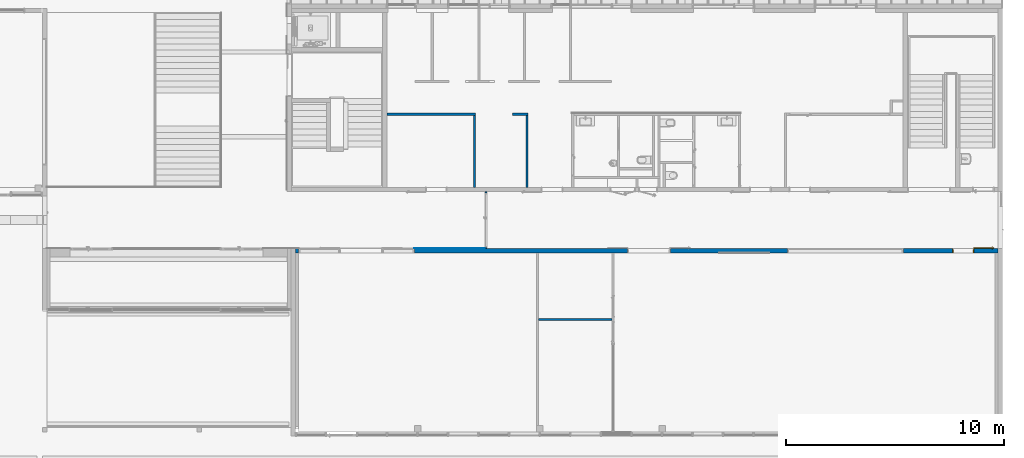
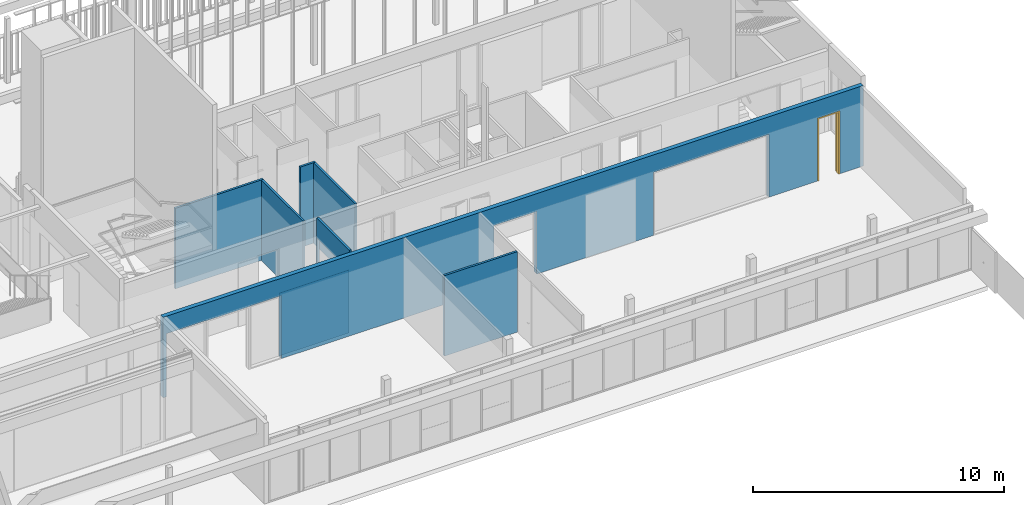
# One storey, part 163 of 240: 8 walls, 1 door, 7 openings.
"""IFC2X3 building model written with IfcOpenShell, lengths in centimetres."""

from ifc_helpers import new_model, entity, si_unit, converted_unit, derived_unit, direction, frame, frame_2d, origin, place, context, subcontext, project, spatial, polyline, rectangle, extrude, clip, bounded_halfspace, faceted_brep, source, transform, mapped, material, material_list, layer, layer_set, layer_usage, type_object, type_shapes, element, fill, save


model = new_model("IFC2X3")

# Units and contexts
model_context = context("Model", 3, precision=0.001, world=origin(), true_north=direction((6.12303176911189e-17, 1.0)))
body_context = subcontext(model_context, "Body", "Model", "MODEL_VIEW")
ifc_project = project(units=[si_unit("LENGTHUNIT", "METRE", prefix="CENTI"), si_unit("AREAUNIT", "SQUARE_METRE"), si_unit("VOLUMEUNIT", "CUBIC_METRE"), converted_unit("PLANEANGLEUNIT", "DEGREE", entity("IfcRatioMeasure", 0.0174532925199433), si_unit("PLANEANGLEUNIT", "RADIAN"), dimensions=[0, 0, 0, 0, 0, 0, 0]), si_unit("MASSUNIT", "GRAM", prefix="KILO"), derived_unit("MASSDENSITYUNIT", [(si_unit("MASSUNIT", "GRAM", prefix="KILO"), 1), (si_unit("LENGTHUNIT", "METRE"), -3)]), si_unit("TIMEUNIT", "SECOND"), si_unit("FREQUENCYUNIT", "HERTZ"), si_unit("THERMODYNAMICTEMPERATUREUNIT", "DEGREE_CELSIUS"), derived_unit("THERMALTRANSMITTANCEUNIT", [(si_unit("MASSUNIT", "GRAM", prefix="KILO"), 1), (si_unit("THERMODYNAMICTEMPERATUREUNIT", "KELVIN"), -1), (si_unit("TIMEUNIT", "SECOND"), -3)]), derived_unit("VOLUMETRICFLOWRATEUNIT", [(si_unit("LENGTHUNIT", "METRE"), 3), (si_unit("TIMEUNIT", "SECOND"), -1)]), si_unit("ELECTRICCURRENTUNIT", "AMPERE"), si_unit("ELECTRICVOLTAGEUNIT", "VOLT"), si_unit("POWERUNIT", "WATT"), si_unit("FORCEUNIT", "NEWTON", prefix="KILO"), si_unit("ILLUMINANCEUNIT", "LUX"), si_unit("LUMINOUSFLUXUNIT", "LUMEN"), si_unit("LUMINOUSINTENSITYUNIT", "CANDELA"), derived_unit("USERDEFINED", [(si_unit("MASSUNIT", "GRAM", prefix="KILO"), -1), (si_unit("LENGTHUNIT", "METRE"), -2), (si_unit("TIMEUNIT", "SECOND"), 3), (si_unit("LUMINOUSFLUXUNIT", "LUMEN"), 1)]), derived_unit("LINEARVELOCITYUNIT", [(si_unit("LENGTHUNIT", "METRE"), 1), (si_unit("TIMEUNIT", "SECOND"), -1)]), si_unit("PRESSUREUNIT", "PASCAL"), derived_unit("USERDEFINED", [(si_unit("LENGTHUNIT", "METRE"), -2), (si_unit("MASSUNIT", "GRAM", prefix="KILO"), 1), (si_unit("TIMEUNIT", "SECOND"), -2)])], contexts=[model_context])

# Site, building, storey
site_placement = place(None, frame((-2781.94577612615, 7442.24238424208, 0.0)))
site = spatial("IfcSite", under=ifc_project, at=site_placement, Name="Default", CompositionType="ELEMENT")
building_placement = place(site_placement, origin())
building = spatial("IfcBuilding", under=site, at=building_placement, CompositionType="ELEMENT")
storey_placement = place(building_placement, origin())
storey = spatial("IfcBuildingStorey", under=building, at=storey_placement, Name="N00 - COO", CompositionType="ELEMENT", Elevation=0.0)

# Wall, openings, door
ifc_material_1 = material(Name="01 - Maçonnerie")
ifc_layer_1 = layer(ifc_material_1, 20.0)
ifc_layer_set_1 = layer_set([ifc_layer_1], Name="Mur de base:04 - Structure - béton - 20cm")
ifc_layer_usage_1 = layer_usage(ifc_layer_set_1, "AXIS2", "NEGATIVE", 10.0)
wall_type_1 = type_object("IfcWallType", Name="Mur de base:04 - Structure - béton - 20cm", PredefinedType="STANDARD", material=ifc_layer_set_1)
wall_1_placement = place(building_placement, frame((-3629.49987968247, -2200.15656731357, 0.0)))
wall_1 = element("IfcWallStandardCase", 1, at=wall_1_placement, inside=storey, type_object=wall_type_1, material=ifc_layer_usage_1, Name="Mur de base:04 - Structure - béton - 20cm", ObjectType="Mur de base:04 - Structure - béton - 20cm", context=body_context, shape_type="Clipping", body=[
    clip(extrude(rectangle(XDim=3219.49999684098, YDim=19.9999999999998, at=frame_2d((1609.74999842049, -7.63833440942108e-14), x_axis=(-1.0, 0.0))), origin(), (0.0, 0.0, 1.0), 391.0), bounded_halfspace(frame((0.0, -10.0, 391.0), z_axis=(0.0, 0.0, -1.0), x_axis=(0.0, 1.0, 0.0)), True, frame((0.0, -10.0, 391.0)), polyline([(0.0, 0.0), (15.2999999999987, 0.0), (1104.50000207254, 0.0), (1114.50000207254, 0.0), (1450.3, 0.0), (1460.3, 0.0), (3204.19999684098, 0.0), (3219.49999684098, 0.0), (3219.49999684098, 20.0), (0.0, 20.0), (0.0, 0.0)]))),
])
opening_1_placement = place(wall_1_placement, frame((201.699996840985, 10.0, 0.0)))
element("IfcOpeningElement", 2, at=opening_1_placement, cuts=wall_1, Name="châssis intérieur vitré:châssis intérieur vitré (h=306):1", ObjectType="Opening", context=body_context, shape_type="SweptSolid", body=[
    extrude(rectangle(XDim=306.0, YDim=186.511887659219, at=frame_2d((153.0, 93.2559438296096), x_axis=(1.0, 0.0))), frame((0.0, 0.0, 0.0), z_axis=(0.0, -1.0, 0.0), x_axis=(0.0, 0.0, 1.0)), (0.0, 0.0, 1.0), 20.0),
])
opening_2_placement = place(wall_1_placement, frame((201.699996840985, -10.0, 0.0)))
element("IfcOpeningElement", 3, at=opening_2_placement, cuts=wall_1, Name="Int. Double:PV (1.90m x 3.00m):1", ObjectType="Opening", context=body_context, shape_type="SweptSolid", body=[
    extrude(rectangle(XDim=304.500000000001, YDim=197.0, at=frame_2d((152.250000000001, 98.5), x_axis=(1.0, 0.0))), frame((0.0, 0.0, 0.0), z_axis=(0.0, 1.0, 0.0), x_axis=(0.0, 0.0, 1.0)), (0.0, 0.0, 1.0), 20.0),
])
opening_3_placement = place(wall_1_placement, frame((544.500002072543, 10.0, 0.0)))
element("IfcOpeningElement", 4, at=opening_3_placement, cuts=wall_1, Name="châssis intérieur vitré:châssis intérieur vitré (h=306):1", ObjectType="Opening", context=body_context, shape_type="SweptSolid", body=[
    extrude(rectangle(XDim=306.0, YDim=145.800005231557, at=frame_2d((153.0, 72.9000026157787), x_axis=(1.0, 0.0))), frame((0.0, 0.0, 0.0), z_axis=(0.0, -1.0, 0.0), x_axis=(0.0, 0.0, 1.0)), (0.0, 0.0, 1.0), 20.0),
])
opening_4_placement = place(wall_1_placement, frame((1520.3, -10.0, 0.0)))
element("IfcOpeningElement", 5, at=opening_4_placement, cuts=wall_1, Name="Int. Double:PV (1.90m x 3.00m):1", ObjectType="Opening", context=body_context, shape_type="SweptSolid", body=[
    extrude(rectangle(XDim=304.500000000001, YDim=197.0, at=frame_2d((152.250000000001, 98.5), x_axis=(1.0, 0.0))), frame((0.0, 0.0, 0.0), z_axis=(0.0, 1.0, 0.0), x_axis=(0.0, 0.0, 1.0)), (0.0, 0.0, 1.0), 20.0),
])
opening_5_placement = place(wall_1_placement, frame((3009.49999684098, -10.0, 0.0)))
opening_5 = element("IfcOpeningElement", 6, at=opening_5_placement, cuts=wall_1, Name="Int. Simple:PV (0.93m x 3.00m):1", ObjectType="Opening", context=body_context, shape_type="SweptSolid", body=[
    extrude(rectangle(XDim=304.500000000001, YDim=99.9999999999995, at=frame_2d((152.250000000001, 49.9999999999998), x_axis=(1.0, 0.0))), frame((0.0, 0.0, 0.0), z_axis=(0.0, 1.0, 0.0), x_axis=(0.0, 0.0, 1.0)), (0.0, 0.0, 1.0), 20.0),
])
opening_6_placement = place(wall_1_placement, frame((2784.50000199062, 10.0, 0.0)))
element("IfcOpeningElement", 7, at=opening_6_placement, cuts=wall_1, Name="châssis intérieur vitré:châssis intérieur vitré (h=306):1", ObjectType="Opening", context=body_context, shape_type="SweptSolid", body=[
    extrude(rectangle(XDim=306.0, YDim=530.0, at=frame_2d((153.0, 265.0), x_axis=(1.0, 0.0))), frame((0.0, 0.0, 0.0), z_axis=(0.0, -1.0, 0.0), x_axis=(0.0, 0.0, 1.0)), (0.0, 0.0, 1.0), 20.0),
])
ifc_material_2 = material(Name="Finition Peinture - Blanc satiné")
ifc_material_3 = material(Name="Bois - Panneau de porte")
ifc_material_4 = material(Name="Bois - Cadre de porte")
ifc_material_list_1 = material_list([ifc_material_2, ifc_material_3, ifc_material_4])
ifc_material_list_2 = material_list([ifc_material_2, ifc_material_3, ifc_material_4])
door_style = type_object("IfcDoorStyle", Name="PV (0.93m x 3.00m)", ConstructionType="NOTDEFINED", OperationType="SINGLE_SWING_RIGHT", ParameterTakesPrecedence=False, Sizeable=False, material=ifc_material_list_2)
shared_shape = source(origin(), body_context, "Body", "Brep", [
    faceted_brep([(-78.4999999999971, 0.499999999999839, 87.0), (-78.4999999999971, 0.499999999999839, 108.0), (-77.5352761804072, 0.499999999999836, 108.399601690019), (-76.4999999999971, 0.49999999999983, 108.535898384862), (-75.4647238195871, 0.499999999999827, 108.399601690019), (-74.4999999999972, 0.499999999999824, 108.0), (-74.499999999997, 0.499999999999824, 87.0), (-75.4647238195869, 0.499999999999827, 86.6003983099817), (-76.499999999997, 0.49999999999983, 86.464101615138), (-77.5352761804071, 0.499999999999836, 86.6003983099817), (-78.4999999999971, 0.0, 108.0), (-78.499999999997, 0.0, 87.0), (-77.5352761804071, 0.0, 86.6003983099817), (-76.499999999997, 0.0, 86.464101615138), (-75.464723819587, 0.0, 86.6003983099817), (-74.4999999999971, 0.0, 87.0), (-74.4999999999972, 0.0, 108.0), (-75.4647238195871, 0.0, 108.399601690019), (-76.4999999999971, 0.0, 108.535898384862), (-77.5352761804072, 0.0, 108.399601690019)], [[[0, 1, 2, 3, 4, 5, 6, 7, 8, 9]], [[10, 11, 12, 13, 14, 15, 16, 17, 18, 19]], [[9, 12, 11, 0]], [[8, 13, 12, 9]], [[7, 14, 13, 8]], [[7, 6, 15, 14]], [[15, 6, 5, 16]], [[4, 17, 16, 5]], [[3, 18, 17, 4]], [[2, 19, 18, 3]], [[2, 1, 10, 19]], [[11, 10, 1, 0]]]),
    faceted_brep([(-78.4999999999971, -4.0, 87.0), (-78.4999999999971, -4.0, 108.0), (-77.5352761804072, -4.0, 108.399601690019), (-76.4999999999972, -4.0, 108.535898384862), (-75.4647238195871, -4.0, 108.399601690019), (-74.4999999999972, -4.0, 108.0), (-74.4999999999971, -4.0, 87.0), (-75.464723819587, -4.0, 86.6003983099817), (-76.499999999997, -4.0, 86.464101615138), (-77.5352761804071, -4.0, 86.6003983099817), (-76.4999999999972, -4.50000000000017, 108.535898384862), (-77.5352761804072, -4.50000000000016, 108.399601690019), (-78.4999999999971, -4.50000000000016, 108.0), (-78.499999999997, -4.50000000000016, 87.0), (-77.5352761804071, -4.50000000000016, 86.6003983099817), (-76.499999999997, -4.50000000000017, 86.464101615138), (-75.464723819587, -4.50000000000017, 86.6003983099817), (-74.4999999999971, -4.50000000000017, 87.0), (-74.4999999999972, -4.50000000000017, 108.0), (-75.4647238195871, -4.50000000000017, 108.399601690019)], [[[0, 1, 2, 3, 4, 5, 6, 7, 8, 9]], [[10, 11, 12, 13, 14, 15, 16, 17, 18, 19]], [[4, 19, 18, 5]], [[3, 10, 19, 4]], [[2, 11, 10, 3]], [[2, 1, 12, 11]], [[13, 12, 1, 0]], [[9, 14, 13, 0]], [[8, 15, 14, 9]], [[7, 16, 15, 8]], [[7, 6, 17, 16]], [[17, 6, 5, 18]]]),
    faceted_brep([(-76.2974701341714, 0.499999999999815, 100.778044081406), (-76.7025298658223, 0.499999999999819, 100.778044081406), (-77.0999999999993, 0.499999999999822, 100.699999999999), (-77.1000000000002, 0.499999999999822, 99.2999999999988), (-76.7025298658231, 0.499999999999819, 99.221955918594), (-76.2974701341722, 0.499999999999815, 99.2219559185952), (-75.8999999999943, 0.499999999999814, 99.3000000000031), (-75.8999999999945, 0.499999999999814, 100.7), (-76.7025298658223, 3.10045754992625, 100.778044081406), (-77.0999999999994, 3.26509507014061, 100.7), (-76.2974701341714, 2.93267631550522, 100.778044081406), (-74.929860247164, 4.30028620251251, 100.778044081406), (-75.097641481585, 4.70534593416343, 100.778044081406), (-75.8999999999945, 2.76803879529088, 100.7), (-75.8999999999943, 2.76803879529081, 99.3000000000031), (-76.2974701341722, 2.93267631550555, 99.2219559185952), (-76.7025298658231, 3.10045754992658, 99.221955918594), (-75.0976414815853, 4.70534593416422, 99.221955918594), (-74.9298602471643, 4.3002862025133, 99.2219559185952), (-77.1000000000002, 3.26509507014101, 99.2999999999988), (-75.2622790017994, 5.10281606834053, 100.7), (-74.7652227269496, 3.9028160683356, 100.7), (-74.7652227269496, 3.90281606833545, 99.3000000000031), (-75.2622790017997, 5.10281606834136, 99.2999999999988), (-66.4981359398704, 5.10281606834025, 100.7), (-66.4981359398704, 4.70534593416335, 100.778044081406), (-66.4981359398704, 4.30028620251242, 100.778044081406), (-66.4981359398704, 3.90281606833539, 100.699999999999), (-66.4981359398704, 3.90281606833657, 99.3000000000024), (-66.4981359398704, 4.30028620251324, 99.2219559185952), (-66.4981359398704, 4.70534593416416, 99.221955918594), (-66.4981359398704, 5.10281606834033, 99.2999999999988), (-70.7139980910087, 4.50281606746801, 100.78786867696), (-71.2692302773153, 5.10281606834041, 100.7), (-70.63167933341, 3.90281606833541, 100.7), (-70.6316793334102, 3.9028160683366, 99.3000000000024), (-70.7139981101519, 4.50281607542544, 99.2121313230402), (-71.2692310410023, 5.10281606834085, 99.2999999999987)], [[[0, 1, 2, 3, 4, 5, 6, 7]], [[2, 1, 8, 9]], [[1, 0, 10, 11, 12, 8]], [[0, 7, 13, 10]], [[14, 13, 7, 6]], [[5, 15, 14, 6]], [[5, 4, 16, 17, 18, 15]], [[3, 19, 16, 4]], [[9, 19, 3, 2]], [[9, 8, 12, 20]], [[10, 13, 21, 11]], [[22, 21, 13, 14]], [[14, 15, 18, 22]], [[16, 19, 23, 17]], [[20, 23, 19, 9]], [[24, 25, 26, 27, 28, 29, 30, 31]], [[32, 25, 33]], [[33, 25, 24]], [[33, 20, 12]], [[11, 34, 32]], [[34, 11, 21]], [[27, 26, 34]], [[32, 26, 25]], [[32, 34, 26]], [[32, 33, 12]], [[11, 32, 12]], [[21, 22, 35, 28, 27, 34]], [[36, 29, 35]], [[30, 36, 37]], [[18, 35, 22]], [[29, 28, 35]], [[30, 37, 31]], [[37, 17, 23]], [[36, 17, 37]], [[36, 18, 17]], [[36, 35, 18]], [[29, 36, 30]], [[23, 20, 33, 24, 31, 37]]]),
    faceted_brep([(-76.2974701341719, -4.50000000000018, 99.2219559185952), (-76.7025298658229, -4.50000000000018, 99.221955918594), (-77.099999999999, -4.50000000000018, 99.2999999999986), (-77.0999999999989, -4.50000000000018, 100.7), (-76.702529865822, -4.50000000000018, 100.778044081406), (-76.2974701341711, -4.50000000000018, 100.778044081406), (-75.8999999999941, -4.50000000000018, 100.7), (-75.8999999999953, -4.50000000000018, 99.3000000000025), (-75.8999999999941, -6.74852045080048, 100.7), (-75.8999999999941, -6.74852045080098, 99.3000000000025), (-76.2974701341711, -6.91315797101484, 100.778044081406), (-76.702529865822, -7.08093920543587, 100.778044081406), (-75.0838906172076, -8.69957845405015, 100.778044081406), (-74.9161093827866, -8.29451872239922, 100.778044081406), (-77.0999999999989, -7.2455767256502, 100.7), (-77.099999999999, -7.24557672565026, 99.2999999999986), (-76.7025298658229, -7.08093920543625, 99.221955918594), (-76.297470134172, -6.91315797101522, 99.2219559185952), (-74.916109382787, -8.29451872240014, 99.2219559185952), (-75.083890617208, -8.69957845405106, 99.221955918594), (-74.7514718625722, -7.89704858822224, 100.7), (-74.7514718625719, -7.8970485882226, 99.3000000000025), (-75.2485281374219, -9.09704858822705, 100.7), (-75.248528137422, -9.09704858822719, 99.2999999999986), (-66.4954216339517, -8.29451872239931, 100.778044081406), (-66.4954216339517, -8.69957845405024, 100.778044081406), (-66.4954216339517, -9.09704858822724, 100.7), (-66.4954216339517, -9.09704858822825, 99.2999999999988), (-66.4954216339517, -8.69957845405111, 99.221955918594), (-66.4954216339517, -8.29451872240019, 99.2219559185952), (-66.4954216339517, -7.8970485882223, 99.3000000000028), (-66.4954216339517, -7.89704858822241, 100.7), (-70.623446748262, -7.89704858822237, 100.7), (-70.6234479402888, -7.89704858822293, 99.3000000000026), (-70.7057655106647, -8.49704858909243, 100.78786867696), (-71.2554794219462, -9.09704858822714, 100.7), (-71.2554795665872, -9.09704858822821, 99.2999999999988), (-70.7057654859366, -8.49704858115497, 99.2121313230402)], [[[0, 1, 2, 3, 4, 5, 6, 7]], [[8, 9, 7, 6]], [[5, 10, 8, 6]], [[5, 4, 11, 12, 13, 10]], [[3, 14, 11, 4]], [[14, 3, 2, 15]], [[2, 1, 16, 15]], [[1, 0, 17, 18, 19, 16]], [[0, 7, 9, 17]], [[20, 21, 9, 8]], [[8, 10, 13, 20]], [[14, 22, 12, 11]], [[23, 22, 14, 15]], [[15, 16, 19, 23]], [[17, 9, 21, 18]], [[24, 25, 26, 27, 28, 29, 30, 31]], [[21, 20, 32, 31, 30, 33]], [[34, 24, 32]], [[25, 34, 35]], [[13, 32, 20]], [[24, 31, 32]], [[25, 35, 26]], [[35, 12, 22]], [[34, 12, 35]], [[34, 13, 12]], [[34, 32, 13]], [[24, 34, 25]], [[22, 23, 36, 27, 26, 35]], [[37, 28, 36]], [[36, 28, 27]], [[36, 23, 19]], [[18, 33, 37]], [[33, 18, 21]], [[30, 29, 33]], [[37, 29, 28]], [[37, 33, 29]], [[37, 36, 19]], [[18, 37, 19]]]),
    faceted_brep([(-82.4999999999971, -4.0, 301.0), (-82.4999999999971, -4.0, 0.0), (10.5000000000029, -4.0, 0.0), (10.5000000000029, -4.0, 301.0), (-82.4999999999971, 0.0, 301.0), (10.5000000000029, 0.0, 301.0), (10.5000000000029, 0.0, 0.0), (-82.4999999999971, 0.0, 0.0)], [[[0, 1, 2, 3]], [[4, 5, 6, 7]], [[3, 5, 4, 0]], [[2, 6, 5, 3]], [[1, 7, 6, 2]], [[0, 4, 7, 1]]]),
    faceted_brep([(107.0, 20.0, 0.0), (107.0, 0.0, 0.0), (108.500000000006, 0.0, 0.0), (108.500000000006, -0.500000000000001, 0.0), (103.500000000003, -0.500000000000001, 0.0), (103.500000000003, 4.0, 0.0), (102.0, 4.0, 0.0), (102.0, 20.5000000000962, 0.0), (108.500000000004, 20.5000000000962, 0.0), (108.500000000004, 20.0, 0.0), (108.500000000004, 20.0, 306.0), (5.50000000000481, 20.0, 306.0), (5.50000000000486, 20.0, 0.0), (7.0, 20.0, 0.0), (7.0, 20.0, 304.500000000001), (107.0, 20.0, 304.500000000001), (108.500000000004, 20.5000000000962, 306.0), (102.0, 20.5000000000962, 299.5), (12.0, 20.5000000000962, 299.5), (12.0, 20.5000000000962, 0.0), (5.50000000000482, 20.5000000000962, 0.0), (5.50000000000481, 20.5000000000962, 306.0), (102.0, 4.0, 299.5), (103.500000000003, 4.0, 301.0), (10.5000000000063, 4.0, 301.0), (10.5000000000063, 4.0, 0.0), (12.0, 4.0, 0.0), (12.0, 4.0, 299.5), (103.500000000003, -0.500000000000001, 301.0), (108.500000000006, -0.500000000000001, 306.0), (5.5000000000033, -0.500000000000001, 306.0), (5.50000000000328, -0.500000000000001, 0.0), (10.5000000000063, -0.500000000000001, 0.0), (10.5000000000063, -0.500000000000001, 301.0), (108.500000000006, 0.0, 306.0), (107.0, 0.0, 304.500000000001), (7.0, 0.0, 304.500000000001), (7.0, 0.0, 0.0), (5.5000000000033, 0.0, 0.0), (5.50000000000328, 0.0, 306.0)], [[[0, 1, 2, 3, 4, 5, 6, 7, 8, 9]], [[9, 10, 11, 12, 13, 14, 15, 0]], [[8, 16, 10, 9]], [[7, 17, 18, 19, 20, 21, 16, 8]], [[7, 6, 22, 17]], [[5, 23, 24, 25, 26, 27, 22, 6]], [[5, 4, 28, 23]], [[3, 29, 30, 31, 32, 33, 28, 4]], [[2, 34, 29, 3]], [[1, 35, 36, 37, 38, 39, 34, 2]], [[0, 15, 35, 1]], [[14, 13, 37, 36]], [[13, 12, 20, 19, 26, 25, 32, 31, 38, 37]], [[21, 20, 12, 11]], [[27, 26, 19, 18]], [[33, 32, 25, 24]], [[39, 38, 31, 30]], [[15, 14, 36, 35]], [[16, 21, 11, 10]], [[22, 27, 18, 17]], [[28, 33, 24, 23]], [[34, 39, 30, 29]]]),
])
type_shapes(door_style, [shared_shape])
door_placement = place(opening_5_placement, frame((107.0, 20.0, 0.0), z_axis=(0.0, 0.0, 1.0), x_axis=(-1.0, 0.0, 0.0)))
door = element("IfcDoor", 8, at=door_placement, inside=storey, type_object=door_style, material=ifc_material_list_1, Name="Int. Simple:PV (0.93m x 3.00m)", ObjectType="Int. Simple:PV (0.93m x 3.00m)", OverallHeight=304.500000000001, OverallWidth=99.9999999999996, context=body_context, shape_type="MappedRepresentation", body=[
    mapped(shared_shape, transform((0.0, 0.0, 0.0), scale=1.0)),
])
fill(opening_5, door)

# Walls
ifc_material_5 = material(Name="01 - Enduit/Plâtre")
ifc_layer_2 = layer(ifc_material_5, 1.3)
ifc_material_6 = material(Name="00 - Isolant")
ifc_layer_3 = layer(ifc_material_6, 7.4)
ifc_layer_4 = layer(ifc_material_5, 1.3)
ifc_layer_set_2 = layer_set([ifc_layer_2, ifc_layer_3, ifc_layer_4], Name="Mur de base:06 - cloisons - Ba13 10cm")
ifc_layer_usage_2 = layer_usage(ifc_layer_set_2, "AXIS2", "NEGATIVE", 5.0)
wall_type_2 = type_object("IfcWallType", Name="Mur de base:06 - cloisons - Ba13 10cm", PredefinedType="STANDARD", material=ifc_layer_set_2)
wall_2_placement = place(building_placement, frame((-3209.29988284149, -1575.0, 0.0)))
element("IfcWallStandardCase", 9, at=wall_2_placement, inside=storey, type_object=wall_type_2, material=ifc_layer_usage_2, Name="Mur de base:06 - cloisons - Ba13 10cm", ObjectType="Mur de base:06 - cloisons - Ba13 10cm", context=body_context, shape_type="Clipping", body=[
    clip(extrude(rectangle(XDim=405.300000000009, YDim=9.99999999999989, at=frame_2d((202.650000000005, 7.105427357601e-15), x_axis=(-1.0, 0.0))), origin(), (0.0, 0.0, 1.0), 391.0), bounded_halfspace(frame((0.0, -5.0, 391.0), z_axis=(0.0, 0.0, -1.0), x_axis=(0.0, 1.0, 0.0)), True, frame((0.0, -5.0, 391.0)), polyline([(0.0, 0.0), (395.300000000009, 0.0), (405.300000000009, 0.0), (405.300000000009, 10.0), (0.0, 10.0), (0.0, 0.0)]))),
])
ifc_layer_usage_3 = layer_usage(ifc_layer_set_2, "AXIS2", "POSITIVE", -5.0)
wall_3_placement = place(building_placement, frame((-2808.99988284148, -1580.0, 0.0), z_axis=(0.0, 0.0, 1.0), x_axis=(0.0, -1.0, 0.0)))
element("IfcWallStandardCase", 10, at=wall_3_placement, inside=storey, type_object=wall_type_2, material=ifc_layer_usage_3, Name="Mur de base:06 - cloisons - Ba13 10cm", ObjectType="Mur de base:06 - cloisons - Ba13 10cm", context=body_context, shape_type="Clipping", body=[
    clip(extrude(rectangle(XDim=330.079033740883, YDim=10.0000000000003, at=frame_2d((165.039516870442, 3.90798504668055e-14), x_axis=(-1.0, 0.0))), origin(), (0.0, 0.0, 1.0), 391.0), bounded_halfspace(frame((0.0, -5.0, 391.0), z_axis=(0.0, 0.0, -1.0), x_axis=(-1.0, 0.0, 0.0)), True, frame((0.0, -5.0, 391.0)), polyline([(0.0, 0.0), (330.079033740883, 0.0), (330.079033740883, 10.0), (0.0, 10.0), (0.0, 0.0)]))),
])
ifc_layer_usage_4 = layer_usage(ifc_layer_set_2, "AXIS2", "NEGATIVE", 5.0)
wall_4_placement = place(building_placement, frame((-2633.99988284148, -1575.0, 0.0)))
element("IfcWallStandardCase", 11, at=wall_4_placement, inside=storey, type_object=wall_type_2, material=ifc_layer_usage_4, Name="Mur de base:06 - cloisons - Ba13 10cm", ObjectType="Mur de base:06 - cloisons - Ba13 10cm", context=body_context, shape_type="Clipping", body=[
    clip(extrude(rectangle(XDim=70.0000000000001, YDim=9.99999999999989, at=frame_2d((35.0000000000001, 0.0), x_axis=(-1.0, 0.0))), origin(), (0.0, 0.0, 1.0), 391.0), bounded_halfspace(frame((0.0, -5.0, 391.0), z_axis=(0.0, 0.0, -1.0), x_axis=(0.0, 1.0, 0.0)), True, frame((0.0, -5.0, 391.0)), polyline([(0.0, 0.0), (60.0, 0.0), (70.0, 0.0), (70.0, 10.0), (0.0, 10.0), (0.0, 0.0)]))),
])
ifc_layer_usage_5 = layer_usage(ifc_layer_set_2, "AXIS2", "NEGATIVE", 5.0)
wall_5_placement = place(building_placement, frame((-2568.99988284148, -1580.0, 0.0), z_axis=(0.0, 0.0, 1.0), x_axis=(0.0, -1.0, 0.0)))
element("IfcWallStandardCase", 12, at=wall_5_placement, inside=storey, type_object=wall_type_2, material=ifc_layer_usage_5, Name="Mur de base:06 - cloisons - Ba13 10cm", ObjectType="Mur de base:06 - cloisons - Ba13 10cm", context=body_context, shape_type="Clipping", body=[
    clip(extrude(rectangle(XDim=330.079033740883, YDim=10.0000000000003, at=frame_2d((165.039516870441, 3.90798504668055e-14), x_axis=(-1.0, 0.0))), origin(), (0.0, 0.0, 1.0), 391.0), bounded_halfspace(frame((0.0, -5.0, 391.0), z_axis=(0.0, 0.0, -1.0), x_axis=(-1.0, 0.0, 0.0)), True, frame((0.0, -5.0, 391.0)), polyline([(0.0, 0.0), (330.079033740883, 0.0), (330.079033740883, 10.0), (0.0, 10.0), (0.0, 0.0)]))),
])
ifc_layer_usage_6 = layer_usage(ifc_layer_set_2, "AXIS2", "NEGATIVE", 5.0)
wall_6_placement = place(building_placement, frame((-2514.99987760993, -2515.15656731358, 0.0)))
element("IfcWallStandardCase", 13, at=wall_6_placement, inside=storey, type_object=wall_type_2, material=ifc_layer_usage_6, Name="Mur de base:06 - cloisons - Ba13 10cm", ObjectType="Mur de base:06 - cloisons - Ba13 10cm", context=body_context, shape_type="Clipping", body=[
    clip(extrude(rectangle(XDim=335.799997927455, YDim=10.0000000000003, at=frame_2d((167.899998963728, 6.83897383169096e-14), x_axis=(-1.0, 0.0))), origin(), (0.0, 0.0, 1.0), 391.0), bounded_halfspace(frame((0.0, -5.0, 391.0), z_axis=(0.0, 0.0, -1.0), x_axis=(0.0, 1.0, 0.0)), True, frame((0.0, -5.0, 391.0)), polyline([(0.0, 0.0), (335.799997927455, 0.0), (335.799997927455, 10.0), (0.0, 10.0), (0.0, 0.0)]))),
])

# Wall, opening
ifc_layer_usage_7 = layer_usage(ifc_layer_set_2, "AXIS2", "NEGATIVE", 5.0)
wall_7_placement = place(building_placement, frame((-2756.99988284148, -1930.07903364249, 0.0), z_axis=(0.0, 0.0, 1.0), x_axis=(0.0, -1.0, 0.0)))
wall_7 = element("IfcWallStandardCase", 14, at=wall_7_placement, inside=storey, type_object=wall_type_2, material=ifc_layer_usage_7, Name="Mur de base:06 - cloisons - Ba13 10cm", ObjectType="Mur de base:06 - cloisons - Ba13 10cm", context=body_context, shape_type="SweptSolid", body=[
    extrude(rectangle(XDim=259.999999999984, YDim=10.0000000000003, at=frame_2d((129.999999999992, 3.5527136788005e-15), x_axis=(-1.0, 0.0))), origin(), (0.0, 0.0, 1.0), 401.0),
])
opening_7_placement = place(wall_7_placement, frame((255.0, 5.0, 0.0)))
element("IfcOpeningElement", 15, at=opening_7_placement, cuts=wall_7, Name="Int. Double:PV (2.50m x 3.06m):1", ObjectType="Opening", context=body_context, shape_type="SweptSolid", body=[
    extrude(rectangle(XDim=304.500000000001, YDim=250.0, at=frame_2d((152.250000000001, 125.0), x_axis=(1.0, 0.0))), frame((0.0, 0.0, 0.0), z_axis=(0.0, -1.0, 0.0), x_axis=(0.0, 0.0, 1.0)), (0.0, 0.0, 1.0), 10.0),
])

# Wall
ifc_material_7 = material(Name="Pin")
ifc_layer_5 = layer(ifc_material_7, 2.0)
ifc_layer_set_3 = layer_set([ifc_layer_5], Name="Mur de base:06 - habillage bois collée 2cm")
ifc_layer_usage_8 = layer_usage(ifc_layer_set_3, "AXIS2", "NEGATIVE", 1.0)
wall_type_3 = type_object("IfcWallType", Name="Mur de base:06 - habillage bois collée 2cm", PredefinedType="STANDARD", material=ifc_layer_set_3)
wall_8_placement = place(storey_placement, frame((-3084.99987760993, -2189.15656731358, 0.0)))
element("IfcWallStandardCase", 16, at=wall_8_placement, inside=storey, type_object=wall_type_3, material=ifc_layer_usage_8, Name="Mur de base:06 - habillage bois collée 2cm", ObjectType="Mur de base:06 - habillage bois collée 2cm", context=body_context, shape_type="SweptSolid", body=[
    extrude(rectangle(XDim=322.785296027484, YDim=2.00000000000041, at=frame_2d((161.392648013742, 0.0), x_axis=(-1.0, 0.0))), origin(), (0.0, 0.0, 1.0), 306.0),
])

save(model, "model.ifc")
